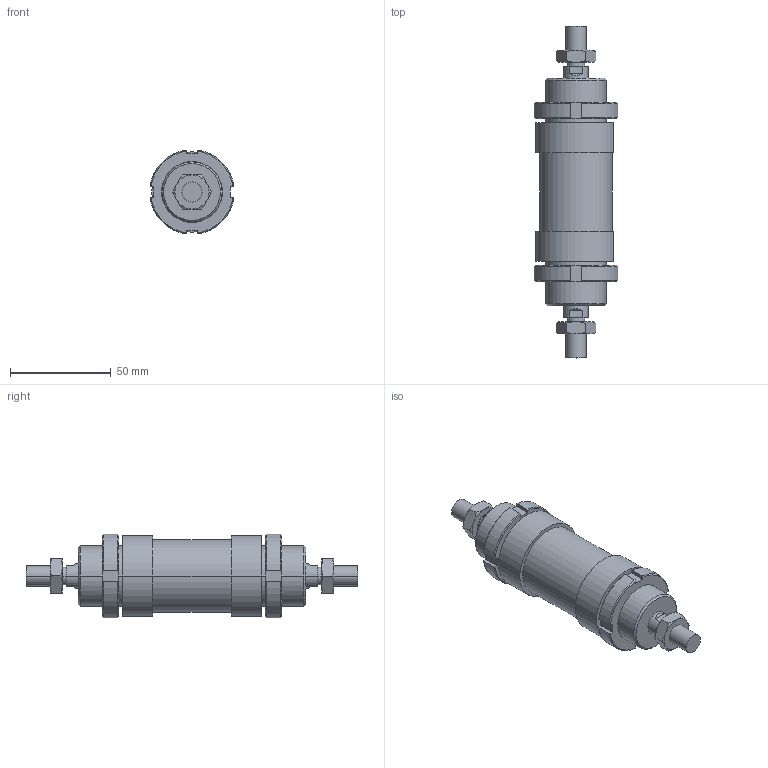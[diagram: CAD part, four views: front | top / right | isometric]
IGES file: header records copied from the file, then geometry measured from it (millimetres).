
Global section: file name: No Iges File Name specified; native system: AutoDesk Inventor R6.0; preprocessor: AutoDesk Inventor Iges Exporter R6.0; author: No Author specified; organization: No Organization specified; date: 20030403.072558; units: millimetre
Bounding box: 41.7 x 165 x 41.7 mm (x, y, z)
Volume: 124598.6 mm3; surface area: 33949.2 mm2
Topology: 6 solids, 6 shells, 182 faces, 424 edges, 264 vertices
Faces by surface type: plane 66, cone 52, bspline 30, cylinder 28, revolution 6
